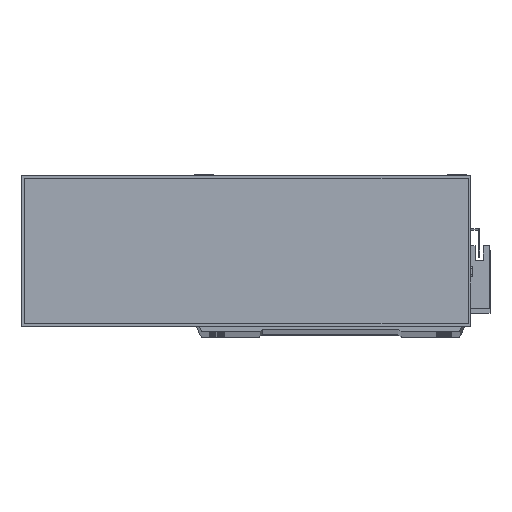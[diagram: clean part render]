
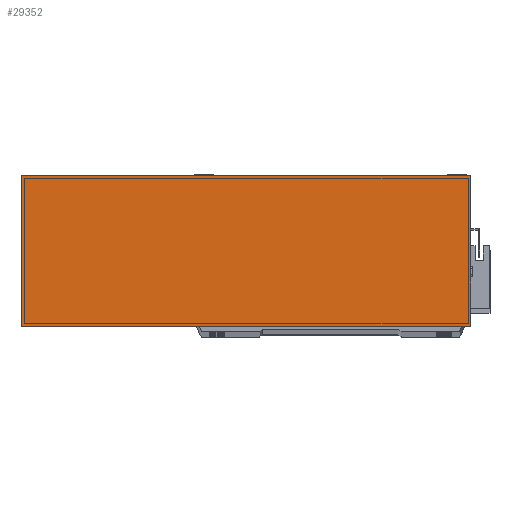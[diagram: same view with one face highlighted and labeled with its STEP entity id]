
A CAD part, top view. The second image highlights one B-rep face of the part: STEP entity #29352.
In plain terms, the highlighted planar face has unit normal (0, 0, 1).
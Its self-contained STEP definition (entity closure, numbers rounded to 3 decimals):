
#589 = CARTESIAN_POINT ( 'NONE',  ( 0., 0., 50. ) ) ;
#793 = CARTESIAN_POINT ( 'NONE',  ( 0., 0., 50. ) ) ;
#951 = VECTOR ( 'NONE', #12797, 1000. ) ;
#1041 = AXIS2_PLACEMENT_3D ( 'NONE', #793, #27396, #5687 ) ;
#1639 = EDGE_LOOP ( 'NONE', ( #4888, #20582, #7126, #18620 ) ) ;
#1754 = EDGE_CURVE ( 'NONE', #29030, #3201, #15192, .T. ) ;
#3201 = VERTEX_POINT ( 'NONE', #25856 ) ;
#3257 = PLANE ( 'NONE',  #1041 ) ;
#4725 = DIRECTION ( 'NONE',  ( -1., 0., 0. ) ) ;
#4888 = ORIENTED_EDGE ( 'NONE', *, *, #1754, .T. ) ;
#5079 = LINE ( 'NONE', #12190, #27785 ) ;
#5687 = DIRECTION ( 'NONE',  ( -1., 0., 0. ) ) ;
#5988 = CARTESIAN_POINT ( 'NONE',  ( 277., 93., 50. ) ) ;
#6167 = EDGE_CURVE ( 'NONE', #13676, #13277, #5079, .T. ) ;
#6593 = FACE_OUTER_BOUND ( 'NONE', #1639, .T. ) ;
#7126 = ORIENTED_EDGE ( 'NONE', *, *, #6167, .T. ) ;
#7439 = CARTESIAN_POINT ( 'NONE',  ( 277., 0., 50. ) ) ;
#8717 = VECTOR ( 'NONE', #25763, 1000. ) ;
#12190 = CARTESIAN_POINT ( 'NONE',  ( 277., 0., 50. ) ) ;
#12797 = DIRECTION ( 'NONE',  ( 1., 0., 0. ) ) ;
#13277 = VERTEX_POINT ( 'NONE', #5988 ) ;
#13676 = VERTEX_POINT ( 'NONE', #7439 ) ;
#13998 = CARTESIAN_POINT ( 'NONE',  ( 0., 93., 50. ) ) ;
#14660 = LINE ( 'NONE', #589, #951 ) ;
#14704 = EDGE_CURVE ( 'NONE', #3201, #13676, #14660, .T. ) ;
#15192 = LINE ( 'NONE', #28157, #8717 ) ;
#17087 = DIRECTION ( 'NONE',  ( 0., 1., 0. ) ) ;
#18620 = ORIENTED_EDGE ( 'NONE', *, *, #29698, .T. ) ;
#20582 = ORIENTED_EDGE ( 'NONE', *, *, #14704, .T. ) ;
#20979 = VECTOR ( 'NONE', #4725, 1000. ) ;
#24019 = CARTESIAN_POINT ( 'NONE',  ( 0., 93., 50. ) ) ;
#25763 = DIRECTION ( 'NONE',  ( 0., -1., 0. ) ) ;
#25856 = CARTESIAN_POINT ( 'NONE',  ( 0., 0., 50. ) ) ;
#27396 = DIRECTION ( 'NONE',  ( 0., 0., -1. ) ) ;
#27397 = LINE ( 'NONE', #24019, #20979 ) ;
#27785 = VECTOR ( 'NONE', #17087, 1000. ) ;
#28157 = CARTESIAN_POINT ( 'NONE',  ( 0., 0., 50. ) ) ;
#29030 = VERTEX_POINT ( 'NONE', #13998 ) ;
#29352 = ADVANCED_FACE ( 'NONE', ( #6593 ), #3257, .F. ) ;
#29698 = EDGE_CURVE ( 'NONE', #13277, #29030, #27397, .T. ) ;
